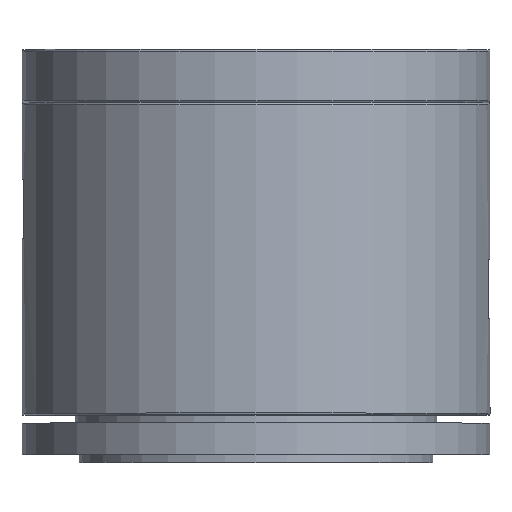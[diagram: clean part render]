
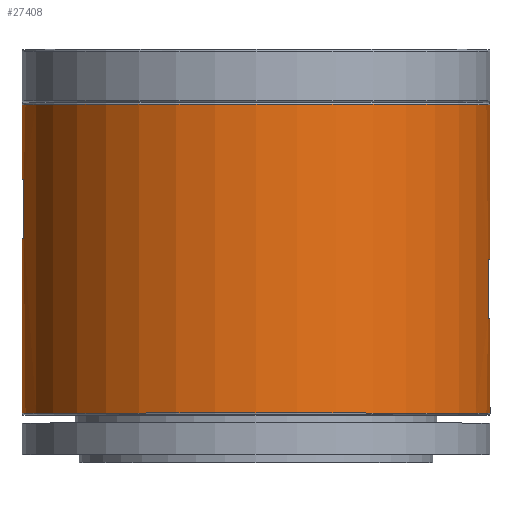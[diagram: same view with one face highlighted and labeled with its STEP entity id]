
A CAD part, top view. The second image highlights one B-rep face of the part: STEP entity #27408.
In plain terms, the highlighted cylindrical face has radius 59.5 mm (diameter 119 mm), a partial arc.
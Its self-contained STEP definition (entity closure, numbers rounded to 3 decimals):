
#41 = CARTESIAN_POINT ( 'NONE',  ( -59.5, 0.5, 0. ) ) ;
#375 = DIRECTION ( 'NONE',  ( 1., 0., 0. ) ) ;
#417 = LINE ( 'NONE', #4257, #2490 ) ;
#581 = CARTESIAN_POINT ( 'NONE',  ( 59.5, 79., 0. ) ) ;
#590 = DIRECTION ( 'NONE',  ( 0., -1., 0. ) ) ;
#770 = CIRCLE ( 'NONE', #29565, 59.5 ) ;
#823 = AXIS2_PLACEMENT_3D ( 'NONE', #35867, #39296, #39517 ) ;
#2023 = DIRECTION ( 'NONE',  ( 0., 1., 0. ) ) ;
#2490 = VECTOR ( 'NONE', #20399, 1000. ) ;
#2553 = CIRCLE ( 'NONE', #42316, 59.5 ) ;
#2839 = AXIS2_PLACEMENT_3D ( 'NONE', #18775, #2023, #31661 ) ;
#3794 = CARTESIAN_POINT ( 'NONE',  ( 0., -728.145, 0. ) ) ;
#3908 = CARTESIAN_POINT ( 'NONE',  ( -59.5, 59.85, 0. ) ) ;
#4048 = EDGE_CURVE ( 'NONE', #38856, #13844, #41413, .T. ) ;
#4257 = CARTESIAN_POINT ( 'NONE',  ( 59.5, -728.145, 0. ) ) ;
#4560 = ORIENTED_EDGE ( 'NONE', *, *, #37171, .T. ) ;
#6514 = VERTEX_POINT ( 'NONE', #581 ) ;
#6833 = CARTESIAN_POINT ( 'NONE',  ( 59.025, -728.145, 7.5 ) ) ;
#7088 = VECTOR ( 'NONE', #21613, 1000. ) ;
#7176 = AXIS2_PLACEMENT_3D ( 'NONE', #20259, #13604, #17452 ) ;
#8352 = CIRCLE ( 'NONE', #823, 59.5 ) ;
#8533 = DIRECTION ( 'NONE',  ( 0., -1., 0. ) ) ;
#8871 = CARTESIAN_POINT ( 'NONE',  ( -59.025, 59.85, 7.5 ) ) ;
#8987 = AXIS2_PLACEMENT_3D ( 'NONE', #18068, #41252, #31173 ) ;
#9217 = VERTEX_POINT ( 'NONE', #36529 ) ;
#9273 = CARTESIAN_POINT ( 'NONE',  ( -59.025, -728.145, 7.5 ) ) ;
#9872 = CARTESIAN_POINT ( 'NONE',  ( 59.5, 24.7, 0. ) ) ;
#10410 = CIRCLE ( 'NONE', #2839, 59.5 ) ;
#11237 = CARTESIAN_POINT ( 'NONE',  ( 59.025, 24.7, 7.5 ) ) ;
#11431 = ORIENTED_EDGE ( 'NONE', *, *, #40421, .T. ) ;
#11436 = DIRECTION ( 'NONE',  ( -1., 0., 0. ) ) ;
#12755 = CARTESIAN_POINT ( 'NONE',  ( -59.5, 79., 0. ) ) ;
#12972 = EDGE_CURVE ( 'NONE', #26545, #24620, #39108, .T. ) ;
#13152 = ORIENTED_EDGE ( 'NONE', *, *, #26033, .F. ) ;
#13355 = VERTEX_POINT ( 'NONE', #32550 ) ;
#13604 = DIRECTION ( 'NONE',  ( 0., -1., 0. ) ) ;
#13844 = VERTEX_POINT ( 'NONE', #11237 ) ;
#13894 = FACE_OUTER_BOUND ( 'NONE', #19174, .T. ) ;
#15733 = ORIENTED_EDGE ( 'NONE', *, *, #27389, .T. ) ;
#16478 = LINE ( 'NONE', #6833, #34806 ) ;
#17452 = DIRECTION ( 'NONE',  ( 0., 0., -1. ) ) ;
#17453 = DIRECTION ( 'NONE',  ( 0., -1., 0. ) ) ;
#17659 = ORIENTED_EDGE ( 'NONE', *, *, #20011, .T. ) ;
#17870 = DIRECTION ( 'NONE',  ( 0., 1., 0. ) ) ;
#18068 = CARTESIAN_POINT ( 'NONE',  ( 0., 44.85, 0. ) ) ;
#18413 = CARTESIAN_POINT ( 'NONE',  ( 59.5, -728.145, 0. ) ) ;
#18775 = CARTESIAN_POINT ( 'NONE',  ( 0., 39.7, 0. ) ) ;
#19174 = EDGE_LOOP ( 'NONE', ( #41233, #37381, #15733, #20702, #25821, #4560, #29483, #13152, #34223, #11431, #17659, #38673 ) ) ;
#19178 = EDGE_CURVE ( 'NONE', #24094, #34141, #770, .T. ) ;
#19245 = EDGE_CURVE ( 'NONE', #24620, #22549, #22017, .T. ) ;
#20011 = EDGE_CURVE ( 'NONE', #9217, #13355, #10410, .T. ) ;
#20259 = CARTESIAN_POINT ( 'NONE',  ( 0., 24.7, 0. ) ) ;
#20399 = DIRECTION ( 'NONE',  ( 0., -1., 0. ) ) ;
#20702 = ORIENTED_EDGE ( 'NONE', *, *, #12972, .T. ) ;
#20851 = VECTOR ( 'NONE', #41898, 1000. ) ;
#21613 = DIRECTION ( 'NONE',  ( 0., -1., 0. ) ) ;
#21832 = VERTEX_POINT ( 'NONE', #12755 ) ;
#22017 = CIRCLE ( 'NONE', #8987, 59.5 ) ;
#22035 = CARTESIAN_POINT ( 'NONE',  ( -59.5, -728.145, 0. ) ) ;
#22549 = VERTEX_POINT ( 'NONE', #36216 ) ;
#23589 = CARTESIAN_POINT ( 'NONE',  ( 59.5, 0.5, 0. ) ) ;
#23821 = AXIS2_PLACEMENT_3D ( 'NONE', #3794, #590, #375 ) ;
#24094 = VERTEX_POINT ( 'NONE', #41 ) ;
#24115 = CARTESIAN_POINT ( 'NONE',  ( -59.5, -728.145, 0. ) ) ;
#24190 = DIRECTION ( 'NONE',  ( 0., 1., 0. ) ) ;
#24620 = VERTEX_POINT ( 'NONE', #30050 ) ;
#24727 = CARTESIAN_POINT ( 'NONE',  ( 0., 0.5, 0. ) ) ;
#25821 = ORIENTED_EDGE ( 'NONE', *, *, #19245, .T. ) ;
#26033 = EDGE_CURVE ( 'NONE', #38856, #34141, #417, .T. ) ;
#26545 = VERTEX_POINT ( 'NONE', #8871 ) ;
#26590 = DIRECTION ( 'NONE',  ( 0., 0., 1. ) ) ;
#27201 = VECTOR ( 'NONE', #17453, 1000. ) ;
#27389 = EDGE_CURVE ( 'NONE', #36285, #26545, #2553, .T. ) ;
#27408 = ADVANCED_FACE ( 'NONE', ( #13894 ), #36452, .T. ) ;
#28278 = LINE ( 'NONE', #18413, #32662 ) ;
#29483 = ORIENTED_EDGE ( 'NONE', *, *, #19178, .T. ) ;
#29565 = AXIS2_PLACEMENT_3D ( 'NONE', #24727, #17870, #11436 ) ;
#30050 = CARTESIAN_POINT ( 'NONE',  ( -59.025, 44.85, 7.5 ) ) ;
#31173 = DIRECTION ( 'NONE',  ( 0., 0., -1. ) ) ;
#31482 = LINE ( 'NONE', #22035, #7088 ) ;
#31661 = DIRECTION ( 'NONE',  ( 0., 0., 1. ) ) ;
#32550 = CARTESIAN_POINT ( 'NONE',  ( 59.5, 39.7, 0. ) ) ;
#32662 = VECTOR ( 'NONE', #8533, 1000. ) ;
#32714 = EDGE_CURVE ( 'NONE', #6514, #21832, #8352, .T. ) ;
#33217 = DIRECTION ( 'NONE',  ( 0., 1., 0. ) ) ;
#33553 = LINE ( 'NONE', #24115, #27201 ) ;
#34141 = VERTEX_POINT ( 'NONE', #23589 ) ;
#34223 = ORIENTED_EDGE ( 'NONE', *, *, #4048, .T. ) ;
#34806 = VECTOR ( 'NONE', #33217, 1000. ) ;
#35572 = EDGE_CURVE ( 'NONE', #21832, #36285, #31482, .T. ) ;
#35867 = CARTESIAN_POINT ( 'NONE',  ( 0., 79., 0. ) ) ;
#36216 = CARTESIAN_POINT ( 'NONE',  ( -59.5, 44.85, 0. ) ) ;
#36285 = VERTEX_POINT ( 'NONE', #3908 ) ;
#36452 = CYLINDRICAL_SURFACE ( 'NONE', #23821, 59.5 ) ;
#36529 = CARTESIAN_POINT ( 'NONE',  ( 59.025, 39.7, 7.5 ) ) ;
#37071 = CARTESIAN_POINT ( 'NONE',  ( 0., 59.85, 0. ) ) ;
#37171 = EDGE_CURVE ( 'NONE', #22549, #24094, #33553, .T. ) ;
#37381 = ORIENTED_EDGE ( 'NONE', *, *, #35572, .T. ) ;
#38673 = ORIENTED_EDGE ( 'NONE', *, *, #39103, .F. ) ;
#38856 = VERTEX_POINT ( 'NONE', #9872 ) ;
#39103 = EDGE_CURVE ( 'NONE', #6514, #13355, #28278, .T. ) ;
#39108 = LINE ( 'NONE', #9273, #20851 ) ;
#39296 = DIRECTION ( 'NONE',  ( 0., -1., 0. ) ) ;
#39517 = DIRECTION ( 'NONE',  ( 1., 0., 0. ) ) ;
#40421 = EDGE_CURVE ( 'NONE', #13844, #9217, #16478, .T. ) ;
#41233 = ORIENTED_EDGE ( 'NONE', *, *, #32714, .T. ) ;
#41252 = DIRECTION ( 'NONE',  ( 0., -1., 0. ) ) ;
#41413 = CIRCLE ( 'NONE', #7176, 59.5 ) ;
#41898 = DIRECTION ( 'NONE',  ( 0., -1., 0. ) ) ;
#42316 = AXIS2_PLACEMENT_3D ( 'NONE', #37071, #24190, #26590 ) ;
